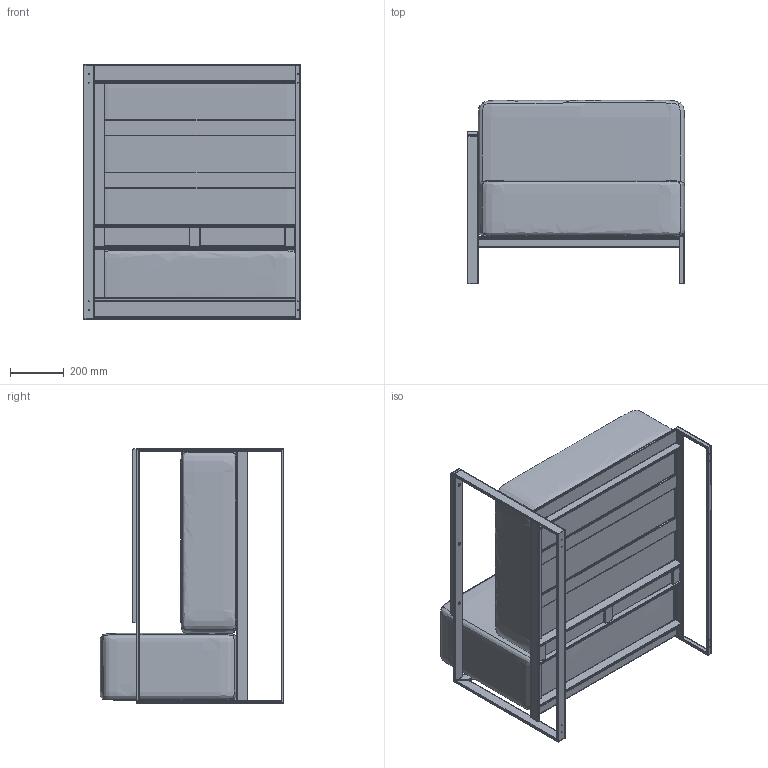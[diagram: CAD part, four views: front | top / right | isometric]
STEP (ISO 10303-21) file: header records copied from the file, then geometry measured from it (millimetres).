
FILE_DESCRIPTION(/* description */ (''),/* implementation_level */ '2;1');
FILE_NAME(/* name */ 'C:\INVENTOR\Workspace\# ARKITEKT FILER\Moore Sofa\Garden Moore End Left.stp',/* time_stamp */ '2020-06-08T10:36:03+02:00',/* author */ ('Röshults'),/* organization */ (''),/* preprocessor_version */ 'ST-DEVELOPER v17.2',/* originating_system */ 'Autodesk Inventor 2019',/* authorisation */ '');
FILE_SCHEMA (('AUTOMOTIVE_DESIGN { 1 0 10303 214 3 1 1 }'));
Length unit declared in the file: millimetre
Products named in the file (35): Garden Moore End Left; 100754; Frame 1583767261881; Skeleton 1583767261882; CSN EN 10305-5 - 20 x 10 x 1,5  - 548,5; CSN EN 10305-5 - 20 x 10 x 1,5  - 950; CSN EN 10305-5 - 20 x 10 x 1,5  - 175; CSN EN 10305-5 - 20 x 10 x 1,5  - 940; CSN EN 10305-5 - 30 x 10 x 1,5  - 930; CSN EN 10305-5 - 30 x 10 x 1,5  - 333; CSN EN 10305-5 - 40 x 10 x 1,5  - 790; CSN EN 10305-5 - 40 x 10 x 1,5  - 940; CSN EN 10305-5 - 40 x 10 x 1,5  - 550; CSN EN 10305-5 - 40 x 10 x 1,5  - 550_1; CSN EN 10305-5 - 40 x 10 x 1,5  - 950; CSN EN 10305-5 - 40 x 10 x 1,5  - 750; CSN EN 10305-5 - 40 x 10 x 1,5  - 750_1; CSN EN 10305-5 - 40 x 10 x 1,5  - 750_2; CSN EN 10305-5 - 40 x 10 x 1,5  - 750_3; CSN EN 10305-5 - 40 x 10 x 1,5  - 930; CSN EN 10305-5 - 40 x 10 x 1,5  - 526; CSN EN 10305-5 - 60 x 10 x 1,5  - 750; CSN EN 10305-5 - 60 x 10 x 1,5  - 710; CSN EN 10305-5 - 60 x 10 x 1,5  - 710_1; CSN EN 10305-5 - 60 x 10 x 1,5  - 750_1; CSN EN 10305-5 - 40 x 10 x 1,5  - 182; CSN EN 10305-5 - 40 x 10 x 1,5  - 72; CSN EN 10305-5 - 40 x 10 x 1,5  - 72_1; CSN EN 10305-5 - 40 x 10 x 1,5  - 72_2; End Cap 20x10; End Cap 30x10; 100527; 100528; 100759-1; 100759-2
Assembly tree (34 placements, depth 4):
  Garden Moore End Left
    100754
      Frame 1583767261881
        Skeleton 1583767261882
        CSN EN 10305-5 - 20 x 10 x 1,5  - 548,5
        CSN EN 10305-5 - 20 x 10 x 1,5  - 950
        CSN EN 10305-5 - 20 x 10 x 1,5  - 175
        CSN EN 10305-5 - 20 x 10 x 1,5  - 940
        CSN EN 10305-5 - 30 x 10 x 1,5  - 930
        CSN EN 10305-5 - 30 x 10 x 1,5  - 333
        CSN EN 10305-5 - 40 x 10 x 1,5  - 790
        CSN EN 10305-5 - 40 x 10 x 1,5  - 940
        CSN EN 10305-5 - 40 x 10 x 1,5  - 550
        CSN EN 10305-5 - 40 x 10 x 1,5  - 550_1
        CSN EN 10305-5 - 40 x 10 x 1,5  - 950
        CSN EN 10305-5 - 40 x 10 x 1,5  - 750
        CSN EN 10305-5 - 40 x 10 x 1,5  - 750_1
        CSN EN 10305-5 - 40 x 10 x 1,5  - 750_2
        CSN EN 10305-5 - 40 x 10 x 1,5  - 750_3
        CSN EN 10305-5 - 40 x 10 x 1,5  - 930
        CSN EN 10305-5 - 40 x 10 x 1,5  - 526
        CSN EN 10305-5 - 60 x 10 x 1,5  - 750
        CSN EN 10305-5 - 60 x 10 x 1,5  - 710
        CSN EN 10305-5 - 60 x 10 x 1,5  - 710_1
        CSN EN 10305-5 - 60 x 10 x 1,5  - 750_1
        CSN EN 10305-5 - 40 x 10 x 1,5  - 182
        CSN EN 10305-5 - 40 x 10 x 1,5  - 72
        CSN EN 10305-5 - 40 x 10 x 1,5  - 72_1
        CSN EN 10305-5 - 40 x 10 x 1,5  - 72_2
      End Cap 20x10
      End Cap 30x10
      100527
    100528
    100759-1
    100759-2
Bounding box: 810.28 x 685 x 950 mm (x, y, z)
Volume: 209764077.3 mm3; surface area: 5914946.3 mm2
Topology: 31 solids, 31 shells, 546 faces, 1445 edges, 961 vertices
Faces by surface type: plane 274, cylinder 245, bspline 12, sphere 8, torus 4, cone 3
Full cylindrical faces by diameter (mm): 2.5 x3, 3.242 x8, 5 x3, 10 x3
Entity records: 23176 total; most frequent: CARTESIAN_POINT 7770, DIRECTION 3146, ORIENTED_EDGE 2884, EDGE_CURVE 1442, AXIS2_PLACEMENT_3D 1125, VERTEX_POINT 961, LINE 896, VECTOR 896
